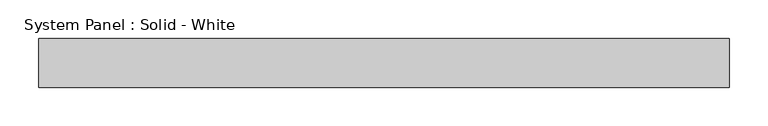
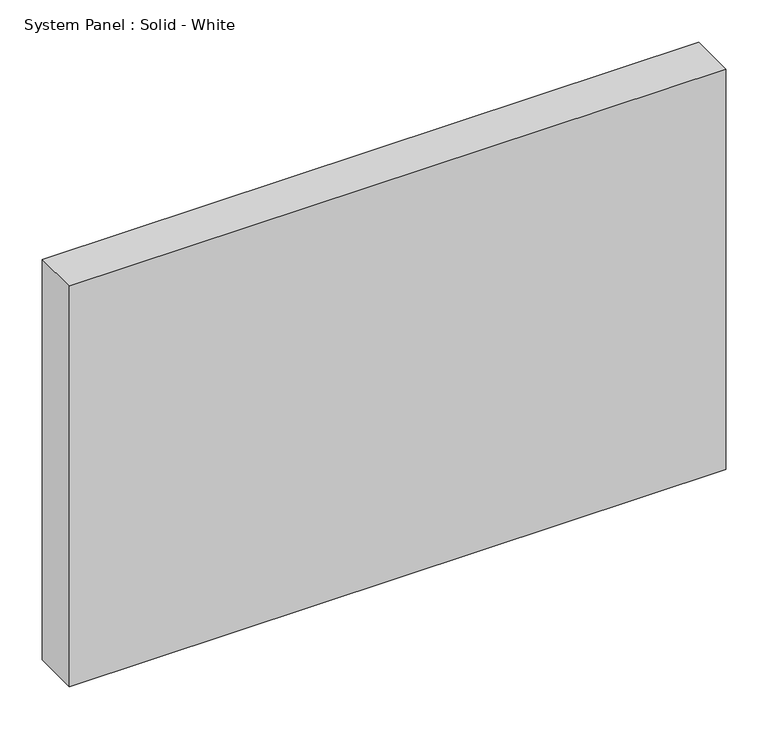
"""IFC4 building model written with IfcOpenShell, lengths in millimetres: plate geometry, System Panel : Solid - White."""

from ifc_helpers import new_model, si_unit, origin, origin_with_axes, place, context, project, spatial, polyline, outline, extrude, source, transform, mapped, element, save


def system_panel_solid_white_d1d938a1(model_context):
    return source(origin(), model_context, "Body", "SweptSolid", [
        extrude(outline(polyline([(447.675, -44.45), (-447.675, -44.45), (-447.675, 19.05), (447.675, 19.05), (447.675, -44.45)])), origin_with_axes(), (0.0, 0.0, 1.0), 577.85),
    ])


if __name__ == "__main__":
    model = new_model("IFC4")
    model_context = context("Model", 3, world=origin())
    ifc_project = project(units=[si_unit("LENGTHUNIT", "METRE", prefix="MILLI")], contexts=[model_context])
    site = spatial("IfcSite", under=ifc_project)
    building = spatial("IfcBuilding", under=site)
    placement = place(None, origin())
    system_panel_solid_white_shape = system_panel_solid_white_d1d938a1(model_context)
    element("IfcPlate", 1, ObjectType="System Panel : Solid - White", at=placement, inside=building, context=model_context, shape_type="MappedRepresentation", body=[
        mapped(system_panel_solid_white_shape, transform((0.0, 0.0, 0.0), x_axis=(1.0, 0.0, 0.0), y_axis=(0.0, 1.0, 0.0), z_axis=(0.0, 0.0, 1.0))),
    ])
    save(model, "model.ifc")
